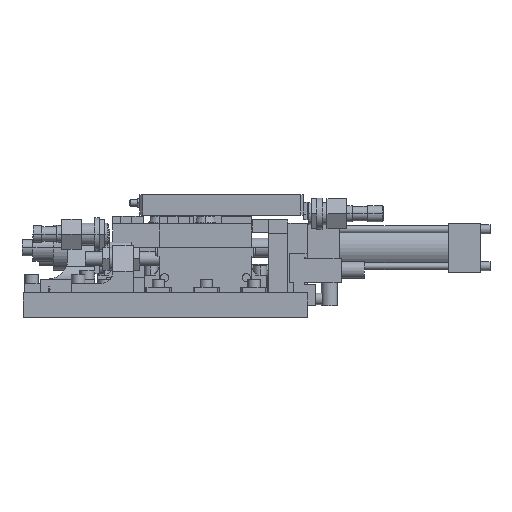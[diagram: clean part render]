
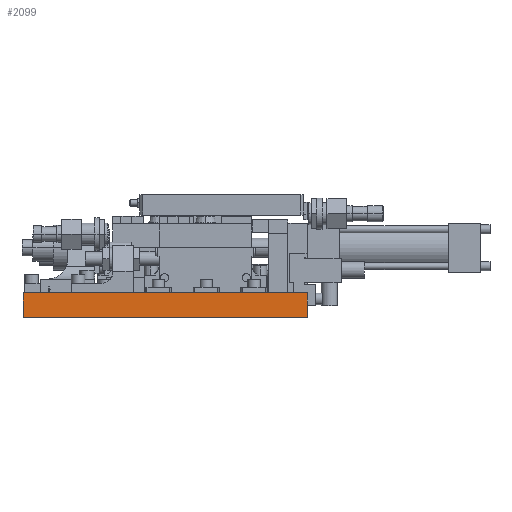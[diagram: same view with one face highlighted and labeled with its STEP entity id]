
A CAD part, front view. The second image highlights one B-rep face of the part: STEP entity #2099.
In plain terms, the highlighted planar face has unit normal (0, -1, 0) as drawn and (0, 1, 0) by its records, which use the part's own axes.
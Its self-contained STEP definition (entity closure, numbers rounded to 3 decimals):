
#356 = CARTESIAN_POINT ( 'NONE',  ( 114., 96., 0. ) ) ;
#1860 = PLANE ( 'NONE',  #5749 ) ;
#2072 = LINE ( 'NONE', #2235, #34366 ) ;
#2099 = ADVANCED_FACE ( 'NONE', ( #12882 ), #1860, .T. ) ;
#2235 = CARTESIAN_POINT ( 'NONE',  ( 409.698, 96., 18. ) ) ;
#2426 = EDGE_CURVE ( 'NONE', #32346, #13210, #28846, .T. ) ;
#4670 = CARTESIAN_POINT ( 'NONE',  ( 114., 96., 18. ) ) ;
#4709 = CARTESIAN_POINT ( 'NONE',  ( 409.698, 96., 18. ) ) ;
#5183 = ORIENTED_EDGE ( 'NONE', *, *, #8283, .F. ) ;
#5185 = DIRECTION ( 'NONE',  ( 0., 0., -1. ) ) ;
#5749 = AXIS2_PLACEMENT_3D ( 'NONE', #4709, #15891, #21065 ) ;
#7272 = EDGE_LOOP ( 'NONE', ( #33926, #14228, #30958, #5183 ) ) ;
#8283 = EDGE_CURVE ( 'NONE', #20348, #32346, #2072, .T. ) ;
#8336 = EDGE_CURVE ( 'NONE', #12264, #13210, #23347, .T. ) ;
#10008 = DIRECTION ( 'NONE',  ( -1., 0., 0. ) ) ;
#12264 = VERTEX_POINT ( 'NONE', #30916 ) ;
#12882 = FACE_OUTER_BOUND ( 'NONE', #7272, .T. ) ;
#13000 = DIRECTION ( 'NONE',  ( 0., 0., 1. ) ) ;
#13210 = VERTEX_POINT ( 'NONE', #356 ) ;
#14220 = VECTOR ( 'NONE', #5185, 1000. ) ;
#14228 = ORIENTED_EDGE ( 'NONE', *, *, #8336, .T. ) ;
#15692 = CARTESIAN_POINT ( 'NONE',  ( 322., 96., 18. ) ) ;
#15891 = DIRECTION ( 'NONE',  ( 0., 1., 0. ) ) ;
#16093 = DIRECTION ( 'NONE',  ( -1., 0., 0. ) ) ;
#16795 = VECTOR ( 'NONE', #10008, 1000. ) ;
#17201 = EDGE_CURVE ( 'NONE', #12264, #20348, #19228, .T. ) ;
#19228 = LINE ( 'NONE', #15692, #33664 ) ;
#19311 = CARTESIAN_POINT ( 'NONE',  ( 114., 96., 18. ) ) ;
#20348 = VERTEX_POINT ( 'NONE', #34102 ) ;
#21065 = DIRECTION ( 'NONE',  ( 0., 0., 1. ) ) ;
#23347 = LINE ( 'NONE', #31327, #16795 ) ;
#28846 = LINE ( 'NONE', #4670, #14220 ) ;
#30916 = CARTESIAN_POINT ( 'NONE',  ( 322., 96., 0. ) ) ;
#30958 = ORIENTED_EDGE ( 'NONE', *, *, #2426, .F. ) ;
#31327 = CARTESIAN_POINT ( 'NONE',  ( 409.698, 96., 0. ) ) ;
#32346 = VERTEX_POINT ( 'NONE', #19311 ) ;
#33664 = VECTOR ( 'NONE', #13000, 1000. ) ;
#33926 = ORIENTED_EDGE ( 'NONE', *, *, #17201, .F. ) ;
#34102 = CARTESIAN_POINT ( 'NONE',  ( 322., 96., 18. ) ) ;
#34366 = VECTOR ( 'NONE', #16093, 1000. ) ;
